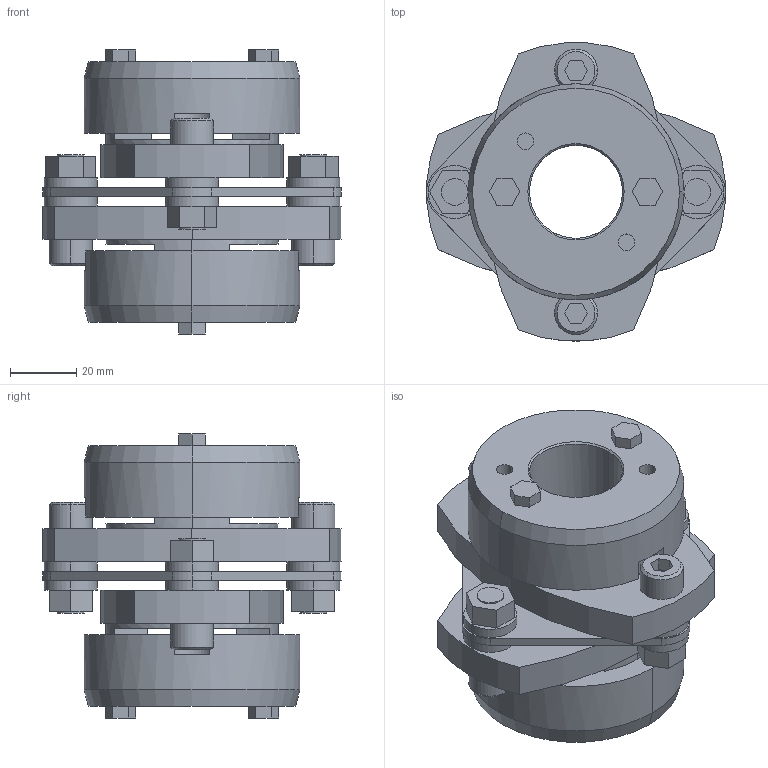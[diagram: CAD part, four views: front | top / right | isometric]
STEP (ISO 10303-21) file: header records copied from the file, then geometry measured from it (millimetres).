
FILE_DESCRIPTION((''),'2;1');
FILE_NAME('LCS-90T7-28×30.stp','2015-11-01T20:23:31',(''),(''),'AutoCAD STEP 2000i','AutoCAD 2000i',', , ');
FILE_SCHEMA(('CONFIG_CONTROL_DESIGN'));
Length unit declared in the file: millimetre
Products named in the file (11): LCS-90T7-30×30; 忣兜1; LC90T7-T030-1; LC90T7-T030; LC90T7-T025-1; LC90T7-T025; LC90T7-T019-1; LC90T7-T019; LC90-B019-1; LC90-B019; LCS90-ITA
Assembly tree (10 placements, depth 2):
  LCS-90T7-30×30
    忣兜1
    LC90T7-T030-1
    LC90T7-T030
    LC90T7-T025-1
    LC90T7-T025
    LC90T7-T019-1
    LC90T7-T019
    LC90-B019-1
    LC90-B019
    LCS90-ITA
Bounding box: 90 x 89.94 x 85.5 mm (x, y, z)
Volume: 210531.3 mm3; surface area: 54249.6 mm2
Topology: 1 solids, 1 shells, 226 faces, 556 edges, 364 vertices
Faces by surface type: plane 122, cylinder 84, cone 20
Entity records: 6983 total; most frequent: DIRECTION 1242, CARTESIAN_POINT 1157, ORIENTED_EDGE 1112, EDGE_CURVE 556, AXIS2_PLACEMENT_3D 449, VERTEX_POINT 364, VECTOR 344, LINE 344
